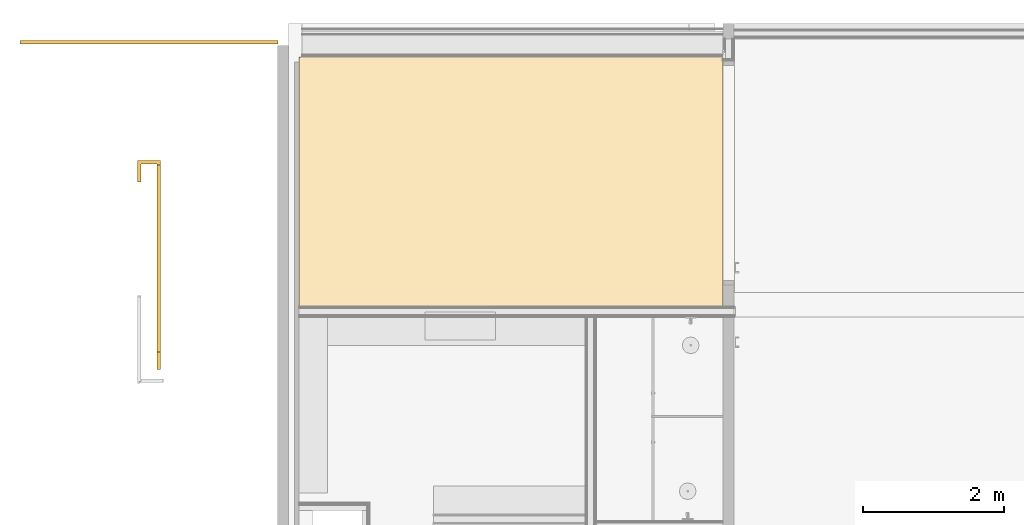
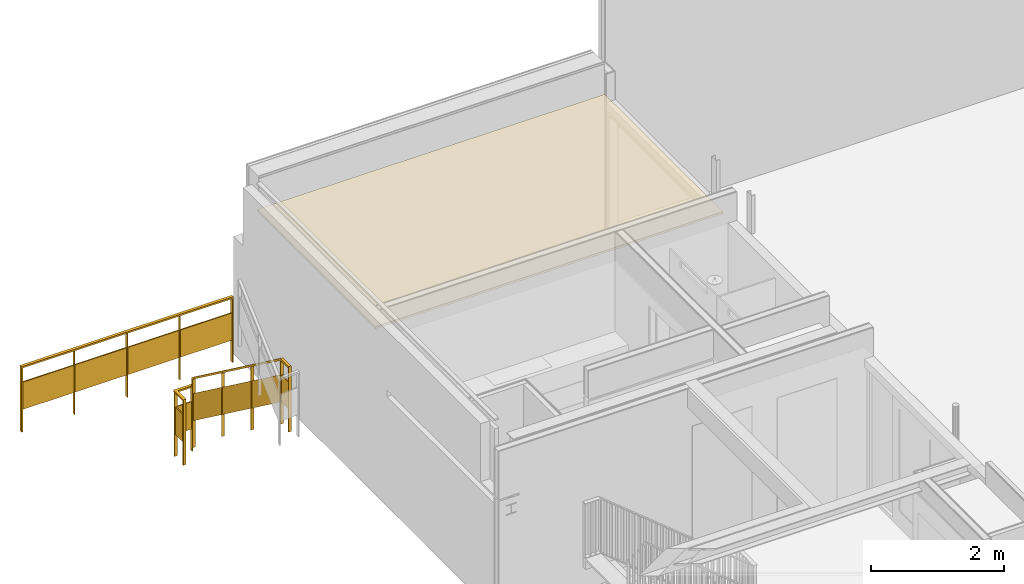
# One storey, part 26 of 35: 2 railings, 1 covering.
"""IFC2X3 building model written with IfcOpenShell, lengths in millimetres."""

from ifc_helpers import new_model, entity, si_unit, converted_unit, derived_unit, money_unit, direction, frame, origin_with_axes, place, context, subcontext, project, spatial, faceted_brep, material, material_list, type_object, element, save


model = new_model("IFC2X3")

# Units and contexts
model_context = context("Model", 3, precision=0.01, world=origin_with_axes(), true_north=direction((0.0, 1.0)))
body_context = subcontext(model_context, "Body", "Model", "MODEL_VIEW")
ifc_project = project(units=[si_unit("LENGTHUNIT", "METRE", prefix="MILLI"), si_unit("AREAUNIT", "SQUARE_METRE"), si_unit("VOLUMEUNIT", "CUBIC_METRE"), converted_unit("PLANEANGLEUNIT", "DEGREE", entity("IfcPlaneAngleMeasure", 0.0174532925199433), si_unit("PLANEANGLEUNIT", "RADIAN"), dimensions=[0, 0, 0, 0, 0, 0, 0]), money_unit("EUR"), converted_unit("TIMEUNIT", "Year", entity("IfcTimeMeasure", 31557600.0), si_unit("TIMEUNIT", "SECOND"), dimensions=[0, 0, 1, 0, 0, 0, 0]), si_unit("MASSUNIT", "GRAM", prefix="KILO"), si_unit("THERMODYNAMICTEMPERATUREUNIT", "DEGREE_CELSIUS"), si_unit("LUMINOUSINTENSITYUNIT", "LUMEN"), si_unit("ENERGYUNIT", "JOULE", prefix="MEGA"), derived_unit("THERMALCONDUCTANCEUNIT", [(si_unit("POWERUNIT", "WATT"), 1), (si_unit("LENGTHUNIT", "METRE"), -1), (si_unit("THERMODYNAMICTEMPERATUREUNIT", "KELVIN"), -1)]), derived_unit("SPECIFICHEATCAPACITYUNIT", [(si_unit("ENERGYUNIT", "JOULE"), 1), (si_unit("MASSUNIT", "GRAM", prefix="KILO"), -1), (si_unit("THERMODYNAMICTEMPERATUREUNIT", "KELVIN"), -1)]), derived_unit("MASSDENSITYUNIT", [(si_unit("MASSUNIT", "GRAM", prefix="KILO"), 1), (si_unit("VOLUMEUNIT", "CUBIC_METRE"), -1)])], contexts=[model_context])

# Site, building, storey
site_placement = place(None, origin_with_axes())
site = spatial("IfcSite", under=ifc_project, at=site_placement, Name="<site naam>", CompositionType="ELEMENT")
building_placement = place(site_placement, origin_with_axes())
building = spatial("IfcBuilding", under=site, at=building_placement, Name="<Naam gebouw>", CompositionType="ELEMENT")
storey_placement = place(building_placement, frame((0.0, 0.0, 6345.0), z_axis=(0.0, 0.0, 1.0), x_axis=(1.0, 0.0, 0.0)))
storey = spatial("IfcBuildingStorey", under=building, at=storey_placement, Name="02 2e tussenverdieping", CompositionType="ELEMENT", Elevation=6345.0)

# Covering
ifc_material_1 = material(Name="geïntegreerd balvast lamellenplafond")
covering_type = type_object("IfcCoveringType", Name="PA-04 40", PredefinedType="CEILING")
covering_placement = place(storey_placement, frame((52135.00000000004, 15974.99999999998, 2600.0), z_axis=(0.0, 0.0, 1.0), x_axis=(1.0, 0.0, 0.0)))
element("IfcCovering", 1, at=covering_placement, inside=storey, type_object=covering_type, material=ifc_material_1, Name="45_Vloer_PA-04", PredefinedType="CEILING", context=body_context, shape_type="Brep", body=[
    faceted_brep([(0.0, 0.0, 39.99999999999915), (0.0, 0.0, 0.0), (6022.782979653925, 0.0, 0.0), (6022.782979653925, 0.0, 39.99999999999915), (0.0, 3546.999999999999, 39.99999999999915), (0.0, 3546.999999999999, 0.0), (6022.782979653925, 3546.999999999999, 0.0), (6022.782979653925, 3546.999999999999, 39.99999999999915)], [[[0, 1, 2, 3]], [[4, 5, 1, 0]], [[2, 1, 5, 6]], [[3, 2, 6, 7]], [[4, 0, 3, 7]], [[7, 6, 5, 4]]]),
])

# Railings
ifc_material_2 = material(Name="staal balustrade")
ifc_material_3 = material(Name="hout AFW")
ifc_material_list_1 = material_list([ifc_material_2, ifc_material_2, ifc_material_2, ifc_material_2, ifc_material_2, ifc_material_3, ifc_material_2, ifc_material_3, ifc_material_2, ifc_material_3, ifc_material_2, ifc_material_3])
railing_type = type_object("IfcRailingType", Name="Railing Type", PredefinedType="NOTDEFINED")
railing_1_placement = place(storey_placement, frame((48175.00000000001, 19684.97773233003, 30.00000000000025), z_axis=(0.0, 0.0, 1.0), x_axis=(1.0, 0.0, 0.0)))
element("IfcRailing", 2, at=railing_1_placement, inside=storey, type_object=railing_type, material=ifc_material_list_1, Name="34_Reling_", PredefinedType="NOTDEFINED", context=body_context, shape_type="Brep", body=[
    faceted_brep([(9.99999999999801, 25.10935930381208, -199.9999999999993), (9.99999999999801, 75.10935930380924, -199.9999999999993), (9.99999999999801, 75.10935930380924, 980.0000000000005), (9.99999999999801, 25.10935930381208, 980.0000000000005), (-9.99999999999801, 25.10935930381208, -199.9999999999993), (-9.99999999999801, 75.10935930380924, -199.9999999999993), (-9.99999999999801, 75.10935930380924, 980.0000000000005), (-9.99999999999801, 25.10935930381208, 980.0000000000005)], [[[0, 1, 2, 3]], [[0, 4, 5, 1]], [[1, 5, 6, 2]], [[3, 2, 6, 7]], [[4, 0, 3, 7]], [[5, 4, 7, 6]]]),
    faceted_brep([(0.0, 75.10935930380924, 1000.0), (0.0, 75.10935930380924, 969.9999999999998), (-9.99999999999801, 75.10935930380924, 969.9999999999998), (-9.99999999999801, 75.10935930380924, 1000.0), (0.0, 25.10935930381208, 1000.0), (0.0, 25.10935930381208, 969.9999999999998), (-9.99999999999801, 25.10935930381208, 969.9999999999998), (-9.99999999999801, 25.10935930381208, 1000.0)], [[[0, 1, 2, 3]], [[0, 4, 5, 1]], [[1, 5, 6, 2]], [[3, 2, 6, 7]], [[4, 0, 3, 7]], [[5, 4, 7, 6]]]),
    faceted_brep([(3660.000000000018, 25.10935930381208, -199.9999999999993), (3660.000000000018, 75.10935930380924, -199.9999999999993), (3660.000000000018, 75.10935930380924, 980.0000000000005), (3660.000000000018, 25.10935930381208, 980.0000000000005), (3640.000000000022, 25.10935930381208, -199.9999999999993), (3640.000000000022, 75.10935930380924, -199.9999999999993), (3640.000000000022, 75.10935930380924, 980.0000000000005), (3640.000000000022, 25.10935930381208, 980.0000000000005)], [[[0, 1, 2, 3]], [[0, 4, 5, 1]], [[1, 5, 6, 2]], [[3, 2, 6, 7]], [[4, 0, 3, 7]], [[5, 4, 7, 6]]]),
    faceted_brep([(3650.00000000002, 25.10935930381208, 1000.0), (3650.00000000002, 25.10935930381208, 969.9999999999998), (3660.000000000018, 25.10935930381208, 969.9999999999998), (3660.000000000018, 25.10935930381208, 1000.0), (3650.00000000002, 75.10935930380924, 1000.0), (3650.00000000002, 75.10935930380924, 969.9999999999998), (3660.000000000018, 75.10935930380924, 969.9999999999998), (3660.000000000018, 75.10935930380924, 1000.0)], [[[0, 1, 2, 3]], [[0, 4, 5, 1]], [[1, 5, 6, 2]], [[3, 2, 6, 7]], [[4, 0, 3, 7]], [[5, 4, 7, 6]]]),
    faceted_brep([(0.0, 25.10935930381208, 1000.0), (0.0, 25.10935930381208, 969.9999999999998), (3650.000000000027, 25.10935930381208, 969.9999999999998), (3650.000000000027, 25.10935930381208, 1000.0), (0.0, 75.10935930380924, 1000.0), (0.0, 75.10935930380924, 969.9999999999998), (3650.000000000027, 75.10935930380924, 969.9999999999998), (3650.000000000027, 75.10935930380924, 1000.0)], [[[0, 1, 2, 3]], [[0, 4, 5, 1]], [[1, 5, 6, 2]], [[3, 2, 6, 7]], [[4, 0, 3, 7]], [[5, 4, 7, 6]]]),
    faceted_brep([(902.5000000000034, 60.10935930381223, 200.0000000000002), (9.99999999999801, 60.10935930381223, 200.0000000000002), (9.99999999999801, 60.10935930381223, 699.9999999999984), (902.5000000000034, 60.10935930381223, 699.9999999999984), (9.99999999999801, 40.1093593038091, 200.0000000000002), (902.5000000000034, 40.1093593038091, 200.0000000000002), (9.99999999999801, 40.1093593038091, 699.9999999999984), (902.5000000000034, 40.1093593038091, 699.9999999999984)], [[[0, 1, 2, 3]], [[4, 1, 0, 5]], [[6, 2, 1, 4]], [[3, 2, 6, 7]], [[0, 3, 7, 5]], [[6, 4, 5, 7]]]),
    faceted_brep([(917.5000000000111, 25.10935930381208, -199.9999999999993), (917.5000000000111, 75.10935930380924, -199.9999999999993), (917.5000000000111, 75.10935930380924, 1000.0), (917.5000000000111, 25.10935930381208, 1000.0), (907.5000000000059, 25.10935930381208, -199.9999999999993), (907.5000000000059, 75.10935930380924, -199.9999999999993), (907.5000000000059, 75.10935930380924, 1000.0), (907.5000000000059, 25.10935930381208, 1000.0)], [[[0, 1, 2, 3]], [[0, 4, 5, 1]], [[1, 5, 6, 2]], [[3, 2, 6, 7]], [[4, 0, 3, 7]], [[5, 4, 7, 6]]]),
    faceted_brep([(1815.000000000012, 60.10935930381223, 200.0000000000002), (922.5000000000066, 60.10935930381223, 200.0000000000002), (922.5000000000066, 60.10935930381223, 699.9999999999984), (1815.000000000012, 60.10935930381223, 699.9999999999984), (922.5000000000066, 40.1093593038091, 200.0000000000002), (1815.000000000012, 40.1093593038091, 200.0000000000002), (922.5000000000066, 40.1093593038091, 699.9999999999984), (1815.000000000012, 40.1093593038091, 699.9999999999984)], [[[0, 1, 2, 3]], [[4, 1, 0, 5]], [[6, 2, 1, 4]], [[3, 2, 6, 7]], [[0, 3, 7, 5]], [[6, 4, 5, 7]]]),
    faceted_brep([(1830.000000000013, 25.10935930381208, -199.9999999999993), (1830.000000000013, 75.10935930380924, -199.9999999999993), (1830.000000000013, 75.10935930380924, 1000.0), (1830.000000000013, 25.10935930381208, 1000.0), (1820.000000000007, 25.10935930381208, -199.9999999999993), (1820.000000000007, 75.10935930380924, -199.9999999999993), (1820.000000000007, 75.10935930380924, 1000.0), (1820.000000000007, 25.10935930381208, 1000.0)], [[[0, 1, 2, 3]], [[0, 4, 5, 1]], [[1, 5, 6, 2]], [[3, 2, 6, 7]], [[4, 0, 3, 7]], [[5, 4, 7, 6]]]),
    faceted_brep([(2727.500000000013, 60.10935930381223, 200.0000000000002), (1835.000000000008, 60.10935930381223, 200.0000000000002), (1835.000000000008, 60.10935930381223, 699.9999999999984), (2727.500000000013, 60.10935930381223, 699.9999999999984), (1835.000000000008, 40.1093593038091, 200.0000000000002), (2727.500000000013, 40.1093593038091, 200.0000000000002), (1835.000000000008, 40.1093593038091, 699.9999999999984), (2727.500000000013, 40.1093593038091, 699.9999999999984)], [[[0, 1, 2, 3]], [[4, 1, 0, 5]], [[6, 2, 1, 4]], [[3, 2, 6, 7]], [[0, 3, 7, 5]], [[6, 4, 5, 7]]]),
    faceted_brep([(2742.500000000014, 25.10935930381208, -199.9999999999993), (2742.500000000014, 75.10935930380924, -199.9999999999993), (2742.500000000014, 75.10935930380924, 1000.0), (2742.500000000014, 25.10935930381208, 1000.0), (2732.500000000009, 25.10935930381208, -199.9999999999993), (2732.500000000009, 75.10935930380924, -199.9999999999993), (2732.500000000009, 75.10935930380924, 1000.0), (2732.500000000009, 25.10935930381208, 1000.0)], [[[0, 1, 2, 3]], [[0, 4, 5, 1]], [[1, 5, 6, 2]], [[3, 2, 6, 7]], [[4, 0, 3, 7]], [[5, 4, 7, 6]]]),
    faceted_brep([(3640.000000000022, 60.10935930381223, 200.0000000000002), (2747.500000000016, 60.10935930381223, 200.0000000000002), (2747.500000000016, 60.10935930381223, 699.9999999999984), (3640.000000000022, 60.10935930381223, 699.9999999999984), (2747.500000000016, 40.1093593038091, 200.0000000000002), (3640.000000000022, 40.1093593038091, 200.0000000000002), (2747.500000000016, 40.1093593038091, 699.9999999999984), (3640.000000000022, 40.1093593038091, 699.9999999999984)], [[[0, 1, 2, 3]], [[4, 1, 0, 5]], [[6, 2, 1, 4]], [[3, 2, 6, 7]], [[0, 3, 7, 5]], [[6, 4, 5, 7]]]),
])
ifc_material_list_2 = material_list([ifc_material_2, ifc_material_2, ifc_material_2, ifc_material_2, ifc_material_2, ifc_material_2, ifc_material_2, ifc_material_2, ifc_material_2, ifc_material_2, ifc_material_3, ifc_material_2, ifc_material_3, ifc_material_2, ifc_material_3, ifc_material_2, ifc_material_3, ifc_material_2, ifc_material_3, ifc_material_2, ifc_material_3, ifc_material_2, ifc_material_3])
railing_2_placement = place(storey_placement, frame((49809.99998882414, 17759.99999170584, 29.49999999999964), z_axis=(0.0, 0.0, 1.0), x_axis=(1.0, 0.0, 0.0)))
element("IfcRailing", 3, at=railing_2_placement, inside=storey, type_object=railing_type, material=ifc_material_list_2, Name="34_Reling_", PredefinedType="NOTDEFINED", context=body_context, shape_type="Brep", body=[
    faceted_brep([(75.00000035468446, 9.999997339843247, -199.9841315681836), (25.0000003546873, 9.999999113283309, -199.9841315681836), (25.0000003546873, 9.999999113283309, 980.0158684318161), (75.00000035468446, 9.999997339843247, 980.0158684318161), (74.99999964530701, -10.00000266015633, -200.015868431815), (24.99999964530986, -10.00000088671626, -200.015868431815), (24.99999964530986, -10.00000088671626, 979.9841315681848), (74.99999964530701, -10.00000266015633, 979.9841315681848)], [[[0, 1, 2, 3]], [[0, 4, 5, 1]], [[1, 5, 6, 2]], [[3, 2, 6, 7]], [[4, 0, 3, 7]], [[5, 4, 7, 6]]]),
    faceted_brep([(24.99999999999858, -8.867147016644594e-07, 1000.0), (25.00000000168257, 0.04760434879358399, 970.0000377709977), (24.99999964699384, -9.952383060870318, 969.9841693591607), (24.99999964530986, -9.999988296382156, 999.984131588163), (74.99999999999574, -2.660158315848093e-06, 1000.0), (75.00000000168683, 0.04760257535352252, 970.0000377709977), (74.9999996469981, -9.952384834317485, 969.9841693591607), (74.99999964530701, -9.99999006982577, 999.984131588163)], [[[0, 1, 2, 3]], [[0, 4, 5, 1]], [[1, 5, 6, 2]], [[3, 2, 6, 7]], [[4, 0, 3, 7]], [[5, 4, 7, 6]]]),
    faceted_brep([(75.00001064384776, 275.0909960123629, -199.5317368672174), (25.0000106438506, 275.0909977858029, -199.5317368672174), (25.0000106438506, 275.0909977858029, 980.4682631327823), (75.00001064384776, 275.0909960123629, 980.4682631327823), (75.00000993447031, 255.0909960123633, -199.5476052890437), (25.00000993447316, 255.0909977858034, -199.5476052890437), (25.00000993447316, 255.0909977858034, 980.452394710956), (75.00000993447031, 255.0909960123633, 980.452394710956)], [[[0, 1, 2, 3]], [[0, 4, 5, 1]], [[1, 5, 6, 2]], [[3, 2, 6, 7]], [[4, 0, 3, 7]], [[5, 4, 7, 6]]]),
    faceted_brep([(340.0000138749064, 240.0909968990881, -199.4999999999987), (340.0000138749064, 290.0909968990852, -199.4999999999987), (340.0000138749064, 290.0909968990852, 980.5000000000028), (340.0000138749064, 240.0909968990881, 980.5000000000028), (320.0000138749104, 240.0909968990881, -199.4999999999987), (320.0000138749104, 290.0909968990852, -199.4999999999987), (320.0000138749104, 290.0909968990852, 980.5000000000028), (320.0000138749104, 240.0909968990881, 980.5000000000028)], [[[0, 1, 2, 3]], [[0, 4, 5, 1]], [[1, 5, 6, 2]], [[3, 2, 6, 7]], [[4, 0, 3, 7]], [[5, 4, 7, 6]]]),
    faceted_brep([(305.0000178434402, 201.5727565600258, -107.6684053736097), (355.0000178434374, 201.5727614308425, -107.6684069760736), (355.0000178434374, 201.5727616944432, 980.500000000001), (305.0000178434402, 201.5727562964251, 980.500000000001), (305.0000156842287, 221.5727565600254, -114.2482596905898), (355.0000156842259, 221.572761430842, -114.2482612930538), (355.0000156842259, 221.5727616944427, 980.500000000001), (305.0000156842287, 221.5727562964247, 980.500000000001)], [[[0, 1, 2, 3]], [[0, 4, 5, 1]], [[1, 5, 6, 2]], [[3, 2, 6, 7]], [[4, 0, 3, 7]], [[5, 4, 7, 6]]]),
    faceted_brep([(355.0000138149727, 196.5727639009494, 1151.368653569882), (305.0000138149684, 196.5727585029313, 1151.368648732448), (305.0000259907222, 196.5727526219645, 970.4999983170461), (355.0000259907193, 196.5727580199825, 970.5000016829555), (305.000009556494, 226.5727589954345, 1166.515622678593), (355.0000095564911, 226.5727643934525, 1166.515627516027), (305.0000207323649, 226.57275359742, 1000.499998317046), (355.000020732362, 226.5727589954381, 1000.500001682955)], [[[0, 1, 2, 3]], [[4, 1, 0, 5]], [[1, 4, 6, 2]], [[2, 6, 7, 3]], [[5, 0, 3, 7]], [[4, 5, 7, 6]]]),
    faceted_brep([(305.0000111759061, -2438.427261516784, 1928.789927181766), (355.0000111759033, -2438.427261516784, 1928.789927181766), (355.0000111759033, -2438.427261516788, 3108.789927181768), (305.0000111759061, -2438.427261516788, 3108.789927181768), (305.0000111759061, -2418.427261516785, 1922.210072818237), (355.0000111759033, -2418.427261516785, 1922.210072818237), (355.0000111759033, -2418.427261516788, 3102.210072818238), (305.0000111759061, -2418.427261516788, 3102.210072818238)], [[[0, 1, 2, 3]], [[0, 4, 5, 1]], [[1, 5, 6, 2]], [[3, 2, 6, 7]], [[4, 0, 3, 7]], [[5, 4, 7, 6]]]),
    faceted_brep([(305.0000111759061, -2677.914552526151, 1925.500000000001), (355.0000111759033, -2677.914552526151, 1925.500000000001), (355.0000111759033, -2677.914552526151, 3105.500000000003), (305.0000111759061, -2677.914552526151, 3105.500000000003), (305.0000111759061, -2657.914552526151, 1925.500000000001), (355.0000111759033, -2657.914552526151, 1925.500000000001), (355.0000111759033, -2657.914552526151, 3105.500000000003), (305.0000111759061, -2657.914552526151, 3105.500000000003)], [[[0, 1, 2, 3]], [[0, 4, 5, 1]], [[1, 5, 6, 2]], [[3, 2, 6, 7]], [[4, 0, 3, 7]], [[5, 4, 7, 6]]]),
    faceted_brep([(305.0000111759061, -2667.914552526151, 3125.5), (305.0000111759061, -2667.914552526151, 3095.500000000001), (305.0000111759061, -2677.914552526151, 3095.500000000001), (305.0000111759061, -2677.914552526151, 3125.5), (355.0000111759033, -2667.914552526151, 3125.5), (355.0000111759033, -2667.914552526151, 3095.500000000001), (355.0000111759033, -2677.914552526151, 3095.500000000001), (355.0000111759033, -2677.914552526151, 3125.5)], [[[0, 1, 2, 3]], [[0, 4, 5, 1]], [[1, 5, 6, 2]], [[3, 2, 6, 7]], [[4, 0, 3, 7]], [[5, 4, 7, 6]]]),
    faceted_brep([(74.99999999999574, -2.660158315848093e-06, 1000.0), (75.00000000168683, 0.04760257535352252, 970.0000377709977), (75.02377968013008, 240.1147995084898, 970.4206672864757), (24.99999999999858, -8.867147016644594e-07, 1000.0), (25.00000000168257, 0.04760434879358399, 970.0000377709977), (25.02384440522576, 290.1147995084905, 970.4206672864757), (74.99997703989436, 240.0909968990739, 1000.420657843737), (25.00004176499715, 290.090996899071, 1000.420657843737)], [[[0, 1, 2]], [[0, 3, 4, 1]], [[1, 5, 2]], [[0, 2, 6]], [[3, 0, 6]], [[4, 3, 7]], [[1, 4, 5]], [[6, 2, 5, 7]], [[3, 6, 7]], [[4, 7, 5]]]),
    faceted_brep([(40.00000904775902, 255.0909972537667, 200.4047894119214), (40.00000035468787, 9.999998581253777, 200.0158684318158), (40.00000035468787, 9.999998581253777, 700.0158684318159), (40.00000904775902, 255.0909972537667, 700.4047894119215), (60.00000035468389, 9.999997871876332, 200.0158684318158), (60.00000904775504, 255.0909965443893, 200.4047894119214), (60.00000035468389, 9.999997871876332, 700.0158684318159), (60.00000904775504, 255.0909965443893, 700.4047894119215)], [[[0, 1, 2, 3]], [[4, 1, 0, 5]], [[6, 2, 1, 4]], [[3, 2, 6, 7]], [[0, 3, 7, 5]], [[6, 4, 5, 7]]]),
    faceted_brep([(74.99997881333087, 240.0909968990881, 1000.500000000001), (75.02378145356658, 240.114799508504, 970.5000094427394), (305.0000138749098, 240.0909968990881, 970.5000000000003), (25.00004353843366, 290.0909968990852, 1000.500000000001), (25.02384617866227, 290.1147995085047, 970.5000094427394), (355.0000084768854, 290.0909968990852, 970.5000000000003), (305.0000138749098, 240.0909968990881, 1000.500000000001), (355.0000084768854, 290.0909968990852, 1000.500000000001)], [[[0, 1, 2]], [[0, 3, 4, 1]], [[1, 4, 5, 2]], [[0, 2, 6]], [[3, 0, 6, 7]], [[4, 3, 7]], [[4, 7, 5]], [[6, 2, 5, 7]]]),
    faceted_brep([(320.0000111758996, 275.0909968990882, 200.5000000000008), (60.00001117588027, 275.0909968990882, 200.5000000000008), (60.00001117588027, 275.0909968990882, 700.5000000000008), (320.0000111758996, 275.0909968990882, 700.5000000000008), (60.00001117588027, 255.0909968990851, 200.5000000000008), (320.0000111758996, 255.0909968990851, 200.5000000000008), (60.00001117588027, 255.0909968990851, 700.5000000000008), (320.0000111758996, 255.0909968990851, 700.5000000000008)], [[[0, 1, 2, 3]], [[4, 1, 0, 5]], [[6, 2, 1, 4]], [[3, 2, 6, 7]], [[0, 3, 7, 5]], [[6, 4, 5, 7]]]),
    faceted_brep([(305.0000207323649, 226.5727551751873, 1000.500000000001), (355.000020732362, 226.5727574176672, 1000.500000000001), (355.000013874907, 290.0909968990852, 1000.500000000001), (305.0000192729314, 240.0909968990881, 1000.500000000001), (355.0000239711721, 196.5727565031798, 970.5000000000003), (305.000023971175, 196.5727542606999, 970.5000000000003), (355.000013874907, 290.0909968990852, 970.5000000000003), (305.0000192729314, 240.0909968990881, 970.5000000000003)], [[[0, 1, 2, 3]], [[4, 1, 0, 5]], [[1, 4, 6, 2]], [[2, 6, 7, 3]], [[5, 0, 3, 7]], [[4, 5, 7, 6]]]),
    faceted_brep([(340.0000212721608, 221.5727573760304, 200.5000000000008), (340.0000176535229, 255.0909979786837, 200.5000000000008), (340.0000176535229, 255.0909979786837, 700.5000000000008), (340.0000212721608, 221.5727573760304, 700.5000000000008), (320.0000176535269, 255.0909958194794, 200.5000000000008), (320.0000212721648, 221.5727552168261, 200.5000000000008), (320.0000176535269, 255.0909958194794, 700.5000000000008), (320.0000212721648, 221.5727552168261, 700.5000000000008)], [[[0, 1, 2, 3]], [[4, 1, 0, 5]], [[6, 2, 1, 4]], [[3, 2, 6, 7]], [[0, 3, 7, 5]], [[6, 4, 5, 7]]]),
    faceted_brep([(355.0000111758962, 196.5727604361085, 1151.368651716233), (355.0000111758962, 226.572760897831, 1166.51562568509), (355.0000111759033, -2428.427261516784, 3125.5), (355.0000111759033, -2438.297042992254, 3095.500000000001), (305.000011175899, 226.5727624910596, 1166.515624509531), (305.000011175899, 196.5727620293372, 1151.368650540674), (305.0000111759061, -2428.427261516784, 3125.5), (305.0000111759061, -2438.297042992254, 3095.500000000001)], [[[0, 1, 2, 3]], [[4, 1, 0, 5]], [[1, 4, 6, 2]], [[7, 3, 2, 6]], [[5, 0, 3, 7]], [[4, 5, 7, 6]]]),
    faceted_brep([(340.0000111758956, -658.4272383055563, 1019.510416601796), (340.0000111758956, 201.5727616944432, 384.9618054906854), (340.0000111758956, 201.5727616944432, 884.9618054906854), (340.0000111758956, -658.4272383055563, 1519.510416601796), (320.0000111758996, 201.5727616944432, 384.9618054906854), (320.0000111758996, -658.4272383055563, 1019.510416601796), (320.0000111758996, 201.5727616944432, 884.9618054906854), (320.0000111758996, -658.4272383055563, 1519.510416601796)], [[[0, 1, 2, 3]], [[4, 1, 0, 5]], [[6, 2, 1, 4]], [[3, 2, 6, 7]], [[0, 3, 7, 5]], [[6, 4, 5, 7]]]),
    faceted_brep([(305.000011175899, -673.4272460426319, 630.5781250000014), (355.0000111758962, -673.4272460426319, 630.5781250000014), (355.0000111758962, -673.4272460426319, 1830.578125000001), (305.000011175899, -673.4272460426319, 1830.578125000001), (305.000011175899, -663.4272460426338, 623.1996527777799), (355.0000111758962, -663.4272460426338, 623.1996527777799), (355.0000111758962, -663.4272460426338, 1823.199652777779), (305.000011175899, -663.4272460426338, 1823.199652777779)], [[[0, 1, 2, 3]], [[0, 4, 5, 1]], [[1, 5, 6, 2]], [[3, 2, 6, 7]], [[4, 0, 3, 7]], [[5, 4, 7, 6]]]),
    faceted_brep([(340.0000111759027, -1538.42724604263, 1668.815972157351), (340.0000111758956, -678.4272460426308, 1034.267361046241), (340.0000111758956, -678.4272460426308, 1534.267361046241), (340.0000111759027, -1538.42724604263, 2168.815972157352), (320.0000111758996, -678.4272460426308, 1034.267361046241), (320.0000111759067, -1538.42724604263, 1668.815972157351), (320.0000111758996, -678.4272460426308, 1534.267361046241), (320.0000111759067, -1538.42724604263, 2168.815972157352)], [[[0, 1, 2, 3]], [[4, 1, 0, 5]], [[6, 2, 1, 4]], [[3, 2, 6, 7]], [[0, 3, 7, 5]], [[6, 4, 5, 7]]]),
    faceted_brep([(305.0000111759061, -1553.427253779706, 1279.883680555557), (355.0000111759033, -1553.427253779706, 1279.883680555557), (355.0000111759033, -1553.427253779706, 2479.883680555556), (305.0000111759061, -1553.427253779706, 2479.883680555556), (305.0000111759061, -1543.427253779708, 1272.505208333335), (355.0000111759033, -1543.427253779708, 1272.505208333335), (355.0000111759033, -1543.427253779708, 2472.505208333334), (305.0000111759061, -1543.427253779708, 2472.505208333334)], [[[0, 1, 2, 3]], [[0, 4, 5, 1]], [[1, 5, 6, 2]], [[3, 2, 6, 7]], [[4, 0, 3, 7]], [[5, 4, 7, 6]]]),
    faceted_brep([(340.0000111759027, -2418.427253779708, 2318.121527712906), (340.0000111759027, -1558.427253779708, 1683.572916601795), (340.0000111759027, -1558.427253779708, 2183.572916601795), (340.0000111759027, -2418.427253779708, 2818.121527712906), (320.0000111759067, -1558.427253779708, 1683.572916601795), (320.0000111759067, -2418.427253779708, 2318.121527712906), (320.0000111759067, -1558.427253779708, 2183.572916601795), (320.0000111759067, -2418.427253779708, 2818.121527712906)], [[[0, 1, 2, 3]], [[4, 1, 0, 5]], [[6, 2, 1, 4]], [[3, 2, 6, 7]], [[0, 3, 7, 5]], [[6, 4, 5, 7]]]),
    faceted_brep([(305.0000111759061, -2428.427261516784, 3125.5), (305.0000111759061, -2438.297042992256, 3095.500000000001), (305.0000111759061, -2667.914552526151, 3095.500000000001), (305.0000111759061, -2667.914552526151, 3125.5), (355.0000111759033, -2428.427261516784, 3125.5), (355.0000111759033, -2438.297042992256, 3095.500000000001), (355.0000111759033, -2667.914552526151, 3095.500000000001), (355.0000111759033, -2667.914552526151, 3125.5)], [[[0, 1, 2, 3]], [[0, 4, 5, 1]], [[1, 5, 6, 2]], [[3, 2, 6, 7]], [[4, 0, 3, 7]], [[5, 4, 7, 6]]]),
    faceted_brep([(340.0000111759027, -2657.914552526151, 2325.500000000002), (340.0000111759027, -2438.427261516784, 2325.500000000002), (340.0000111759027, -2438.427261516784, 2825.5), (340.0000111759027, -2657.914552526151, 2825.5), (320.0000111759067, -2438.427261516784, 2325.500000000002), (320.0000111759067, -2657.914552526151, 2325.500000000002), (320.0000111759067, -2438.427261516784, 2825.5), (320.0000111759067, -2657.914552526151, 2825.5)], [[[0, 1, 2, 3]], [[4, 1, 0, 5]], [[6, 2, 1, 4]], [[3, 2, 6, 7]], [[0, 3, 7, 5]], [[6, 4, 5, 7]]]),
])

save(model, "model.ifc")
